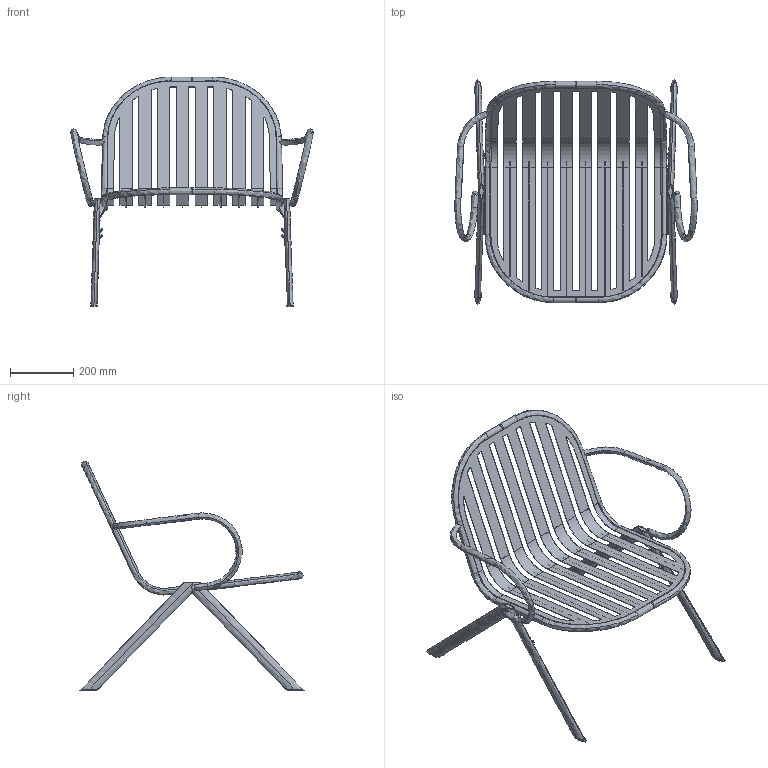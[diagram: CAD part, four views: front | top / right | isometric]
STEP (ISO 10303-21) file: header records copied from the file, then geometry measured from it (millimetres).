
FILE_DESCRIPTION(/* description */ (''),/* implementation_level */ '2;1');
FILE_NAME(/* name */ '\\srvcontab\BABEL D\COMUNICAZIONE\SITO WEB\PRODOTTI\MELIK\MLKLCB\FILE 3D\MLKLCB.stp',/* time_stamp */ '2021-10-12T08:12:03+02:00',/* author */ ('User'),/* organization */ (''),/* preprocessor_version */ 'ST-DEVELOPER v18',/* originating_system */ 'Autodesk Inventor 2020',/* authorisation */ '');
FILE_SCHEMA (('AUTOMOTIVE_DESIGN { 1 0 10303 214 3 1 1 }'));
Products named in the file (1): MLKLCB
Bounding box: 766.48 x 709.31 x 727.41 mm (x, y, z)
Volume: 2542457.9 mm3; surface area: 1390302.9 mm2
Topology: 29 solids, 33 shells, 508 faces, 1304 edges, 817 vertices
Faces by surface type: bspline 319, plane 90, cylinder 88, sphere 11
Full cylindrical faces by diameter (mm): 6 x8, 22 x4
Entity records: 52586 total; most frequent: CARTESIAN_POINT 42176, ORIENTED_EDGE 2568, DIRECTION 1470, EDGE_CURVE 1298, VERTEX_POINT 817, AXIS2_PLACEMENT_3D 529, EDGE_LOOP 519, FACE_OUTER_BOUND 508
